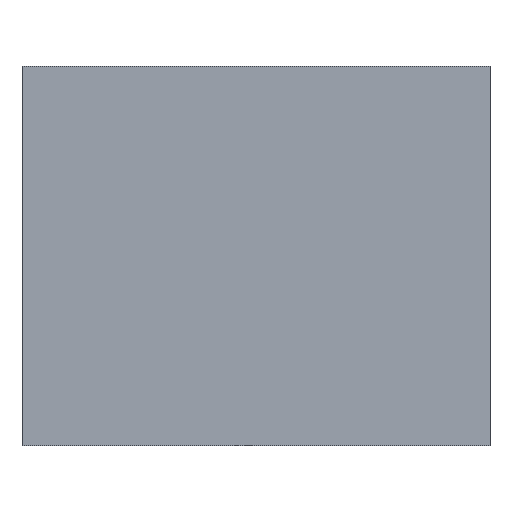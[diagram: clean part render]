
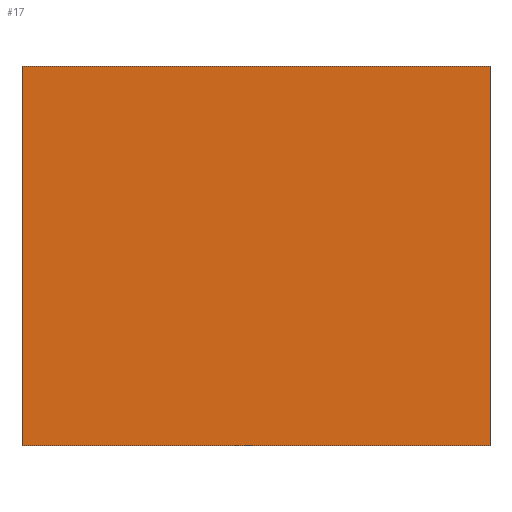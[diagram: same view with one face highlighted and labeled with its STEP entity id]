
A CAD part, left-side view. The second image highlights one B-rep face of the part: STEP entity #17.
In plain terms, the highlighted planar face has unit normal (-1, 0, 0).
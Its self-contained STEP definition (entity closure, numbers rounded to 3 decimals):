
#17 = ADVANCED_FACE('',(#18),#32,.F.);
#18 = FACE_BOUND('',#19,.F.);
#19 = EDGE_LOOP('',(#20,#55,#83,#111));
#20 = ORIENTED_EDGE('',*,*,#21,.F.);
#21 = EDGE_CURVE('',#22,#24,#26,.T.);
#22 = VERTEX_POINT('',#23);
#23 = CARTESIAN_POINT('',(7.5,-46.12,1.075));
#24 = VERTEX_POINT('',#25);
#25 = CARTESIAN_POINT('',(7.5,-46.12,13.875));
#26 = SURFACE_CURVE('',#27,(#31,#43),.PCURVE_S1.);
#27 = LINE('',#28,#29);
#28 = CARTESIAN_POINT('',(7.5,-46.12,1.075));
#29 = VECTOR('',#30,1.);
#30 = DIRECTION('',(0.,0.,1.));
#31 = PCURVE('',#32,#37);
#32 = PLANE('',#33);
#33 = AXIS2_PLACEMENT_3D('',#34,#35,#36);
#34 = CARTESIAN_POINT('',(7.5,-46.12,1.075));
#35 = DIRECTION('',(1.,0.,0.));
#36 = DIRECTION('',(0.,0.,1.));
#37 = DEFINITIONAL_REPRESENTATION('',(#38),#42);
#38 = LINE('',#39,#40);
#39 = CARTESIAN_POINT('',(0.,0.));
#40 = VECTOR('',#41,1.);
#41 = DIRECTION('',(1.,0.));
#42 = ( GEOMETRIC_REPRESENTATION_CONTEXT(2) 
PARAMETRIC_REPRESENTATION_CONTEXT() REPRESENTATION_CONTEXT('2D SPACE',''
  ) );
#43 = PCURVE('',#44,#49);
#44 = PLANE('',#45);
#45 = AXIS2_PLACEMENT_3D('',#46,#47,#48);
#46 = CARTESIAN_POINT('',(7.5,-46.12,1.075));
#47 = DIRECTION('',(0.,1.,0.));
#48 = DIRECTION('',(0.,0.,1.));
#49 = DEFINITIONAL_REPRESENTATION('',(#50),#54);
#50 = LINE('',#51,#52);
#51 = CARTESIAN_POINT('',(0.,0.));
#52 = VECTOR('',#53,1.);
#53 = DIRECTION('',(1.,0.));
#54 = ( GEOMETRIC_REPRESENTATION_CONTEXT(2) 
PARAMETRIC_REPRESENTATION_CONTEXT() REPRESENTATION_CONTEXT('2D SPACE',''
  ) );
#55 = ORIENTED_EDGE('',*,*,#56,.T.);
#56 = EDGE_CURVE('',#22,#57,#59,.T.);
#57 = VERTEX_POINT('',#58);
#58 = CARTESIAN_POINT('',(7.5,-30.32,1.075));
#59 = SURFACE_CURVE('',#60,(#64,#71),.PCURVE_S1.);
#60 = LINE('',#61,#62);
#61 = CARTESIAN_POINT('',(7.5,-46.12,1.075));
#62 = VECTOR('',#63,1.);
#63 = DIRECTION('',(0.,1.,0.));
#64 = PCURVE('',#32,#65);
#65 = DEFINITIONAL_REPRESENTATION('',(#66),#70);
#66 = LINE('',#67,#68);
#67 = CARTESIAN_POINT('',(0.,0.));
#68 = VECTOR('',#69,1.);
#69 = DIRECTION('',(0.,-1.));
#70 = ( GEOMETRIC_REPRESENTATION_CONTEXT(2) 
PARAMETRIC_REPRESENTATION_CONTEXT() REPRESENTATION_CONTEXT('2D SPACE',''
  ) );
#71 = PCURVE('',#72,#77);
#72 = PLANE('',#73);
#73 = AXIS2_PLACEMENT_3D('',#74,#75,#76);
#74 = CARTESIAN_POINT('',(7.5,-46.12,1.075));
#75 = DIRECTION('',(0.,0.,1.));
#76 = DIRECTION('',(1.,0.,0.));
#77 = DEFINITIONAL_REPRESENTATION('',(#78),#82);
#78 = LINE('',#79,#80);
#79 = CARTESIAN_POINT('',(0.,0.));
#80 = VECTOR('',#81,1.);
#81 = DIRECTION('',(0.,1.));
#82 = ( GEOMETRIC_REPRESENTATION_CONTEXT(2) 
PARAMETRIC_REPRESENTATION_CONTEXT() REPRESENTATION_CONTEXT('2D SPACE',''
  ) );
#83 = ORIENTED_EDGE('',*,*,#84,.T.);
#84 = EDGE_CURVE('',#57,#85,#87,.T.);
#85 = VERTEX_POINT('',#86);
#86 = CARTESIAN_POINT('',(7.5,-30.32,13.875));
#87 = SURFACE_CURVE('',#88,(#92,#99),.PCURVE_S1.);
#88 = LINE('',#89,#90);
#89 = CARTESIAN_POINT('',(7.5,-30.32,1.075));
#90 = VECTOR('',#91,1.);
#91 = DIRECTION('',(0.,0.,1.));
#92 = PCURVE('',#32,#93);
#93 = DEFINITIONAL_REPRESENTATION('',(#94),#98);
#94 = LINE('',#95,#96);
#95 = CARTESIAN_POINT('',(0.,-15.8));
#96 = VECTOR('',#97,1.);
#97 = DIRECTION('',(1.,0.));
#98 = ( GEOMETRIC_REPRESENTATION_CONTEXT(2) 
PARAMETRIC_REPRESENTATION_CONTEXT() REPRESENTATION_CONTEXT('2D SPACE',''
  ) );
#99 = PCURVE('',#100,#105);
#100 = PLANE('',#101);
#101 = AXIS2_PLACEMENT_3D('',#102,#103,#104);
#102 = CARTESIAN_POINT('',(7.5,-30.32,1.075));
#103 = DIRECTION('',(0.,1.,0.));
#104 = DIRECTION('',(0.,0.,1.));
#105 = DEFINITIONAL_REPRESENTATION('',(#106),#110);
#106 = LINE('',#107,#108);
#107 = CARTESIAN_POINT('',(0.,0.));
#108 = VECTOR('',#109,1.);
#109 = DIRECTION('',(1.,0.));
#110 = ( GEOMETRIC_REPRESENTATION_CONTEXT(2) 
PARAMETRIC_REPRESENTATION_CONTEXT() REPRESENTATION_CONTEXT('2D SPACE',''
  ) );
#111 = ORIENTED_EDGE('',*,*,#112,.F.);
#112 = EDGE_CURVE('',#24,#85,#113,.T.);
#113 = SURFACE_CURVE('',#114,(#118,#125),.PCURVE_S1.);
#114 = LINE('',#115,#116);
#115 = CARTESIAN_POINT('',(7.5,-46.12,13.875));
#116 = VECTOR('',#117,1.);
#117 = DIRECTION('',(0.,1.,0.));
#118 = PCURVE('',#32,#119);
#119 = DEFINITIONAL_REPRESENTATION('',(#120),#124);
#120 = LINE('',#121,#122);
#121 = CARTESIAN_POINT('',(12.8,0.));
#122 = VECTOR('',#123,1.);
#123 = DIRECTION('',(0.,-1.));
#124 = ( GEOMETRIC_REPRESENTATION_CONTEXT(2) 
PARAMETRIC_REPRESENTATION_CONTEXT() REPRESENTATION_CONTEXT('2D SPACE',''
  ) );
#125 = PCURVE('',#126,#131);
#126 = PLANE('',#127);
#127 = AXIS2_PLACEMENT_3D('',#128,#129,#130);
#128 = CARTESIAN_POINT('',(7.5,-46.12,13.875));
#129 = DIRECTION('',(0.,0.,1.));
#130 = DIRECTION('',(1.,0.,0.));
#131 = DEFINITIONAL_REPRESENTATION('',(#132),#136);
#132 = LINE('',#133,#134);
#133 = CARTESIAN_POINT('',(0.,0.));
#134 = VECTOR('',#135,1.);
#135 = DIRECTION('',(0.,1.));
#136 = ( GEOMETRIC_REPRESENTATION_CONTEXT(2) 
PARAMETRIC_REPRESENTATION_CONTEXT() REPRESENTATION_CONTEXT('2D SPACE',''
  ) );
